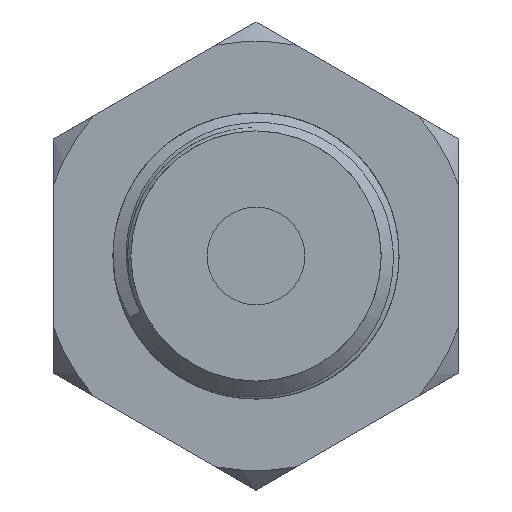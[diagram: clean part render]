
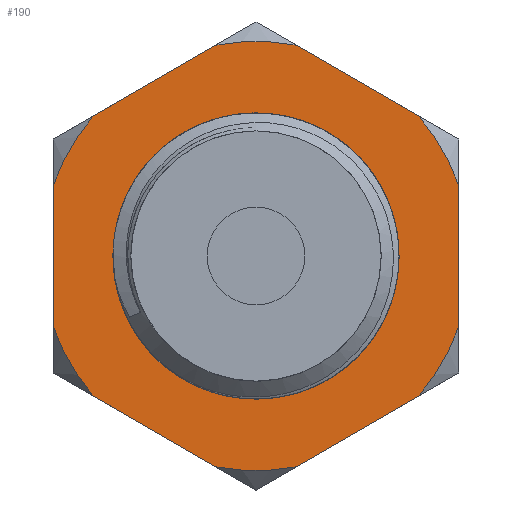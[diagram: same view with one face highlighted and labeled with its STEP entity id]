
A CAD part, left-side view. The second image highlights one B-rep face of the part: STEP entity #190.
In plain terms, the highlighted planar face has unit normal (-1, 0, 0).
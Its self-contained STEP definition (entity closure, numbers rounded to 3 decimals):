
#58=PLANE('',#886);
#75=FACE_BOUND('',#290,.T.);
#76=FACE_BOUND('',#291,.T.);
#105=LINE('',#10341,#141);
#106=LINE('',#10345,#142);
#107=LINE('',#10349,#143);
#108=LINE('',#10353,#144);
#109=LINE('',#10357,#145);
#110=LINE('',#10361,#146);
#141=VECTOR('',#1007,1.);
#142=VECTOR('',#1010,1.);
#143=VECTOR('',#1013,1.);
#144=VECTOR('',#1016,1.);
#145=VECTOR('',#1019,1.);
#146=VECTOR('',#1022,1.);
#190=ADVANCED_FACE('',(#75,#76),#58,.F.);
#290=EDGE_LOOP('',(#499,#500,#501,#502,#503,#504,#505,#506,#507,#508,#509,
#510));
#291=EDGE_LOOP('',(#511,#512,#513,#514));
#351=B_SPLINE_CURVE_WITH_KNOTS('',3,(#10365,#10366,#10367,#10368,#10369,
#10370,#10371,#10372,#10373,#10374,#10375,#10376,#10377,#10378,#10379,#10380,
#10381,#10382,#10383,#10384,#10385,#10386),.UNSPECIFIED.,.F.,.F.,(4,3,3,
3,3,3,3,4),(0.,0.132,0.27,0.426,0.58,
0.731,0.88,1.),.UNSPECIFIED.);
#352=B_SPLINE_CURVE_WITH_KNOTS('',3,(#10390,#10391,#10392,#10393,#10394,
#10395,#10396,#10397,#10398,#10399,#10400,#10401,#10402,#10403,#10404,#10405,
#10406,#10407,#10408,#10409,#10410,#10411),.UNSPECIFIED.,.F.,.F.,(4,3,3,
3,3,3,3,4),(0.,0.104,0.243,0.389,0.537,
0.687,0.84,1.),.UNSPECIFIED.);
#499=ORIENTED_EDGE('',*,*,#758,.T.);
#500=ORIENTED_EDGE('',*,*,#759,.T.);
#501=ORIENTED_EDGE('',*,*,#760,.T.);
#502=ORIENTED_EDGE('',*,*,#761,.T.);
#503=ORIENTED_EDGE('',*,*,#762,.T.);
#504=ORIENTED_EDGE('',*,*,#763,.T.);
#505=ORIENTED_EDGE('',*,*,#764,.T.);
#506=ORIENTED_EDGE('',*,*,#765,.T.);
#507=ORIENTED_EDGE('',*,*,#766,.T.);
#508=ORIENTED_EDGE('',*,*,#767,.T.);
#509=ORIENTED_EDGE('',*,*,#768,.T.);
#510=ORIENTED_EDGE('',*,*,#769,.T.);
#511=ORIENTED_EDGE('',*,*,#770,.T.);
#512=ORIENTED_EDGE('',*,*,#771,.T.);
#513=ORIENTED_EDGE('',*,*,#772,.F.);
#514=ORIENTED_EDGE('',*,*,#773,.T.);
#656=VERTEX_POINT('',#10339);
#657=VERTEX_POINT('',#10340);
#658=VERTEX_POINT('',#10342);
#659=VERTEX_POINT('',#10344);
#660=VERTEX_POINT('',#10346);
#661=VERTEX_POINT('',#10348);
#662=VERTEX_POINT('',#10350);
#663=VERTEX_POINT('',#10352);
#664=VERTEX_POINT('',#10354);
#665=VERTEX_POINT('',#10356);
#666=VERTEX_POINT('',#10358);
#667=VERTEX_POINT('',#10360);
#668=VERTEX_POINT('',#10363);
#669=VERTEX_POINT('',#10364);
#670=VERTEX_POINT('',#10387);
#671=VERTEX_POINT('',#10389);
#758=EDGE_CURVE('',#656,#657,#828,.T.);
#759=EDGE_CURVE('',#657,#658,#105,.T.);
#760=EDGE_CURVE('',#658,#659,#829,.T.);
#761=EDGE_CURVE('',#659,#660,#106,.T.);
#762=EDGE_CURVE('',#660,#661,#830,.T.);
#763=EDGE_CURVE('',#661,#662,#107,.T.);
#764=EDGE_CURVE('',#662,#663,#831,.T.);
#765=EDGE_CURVE('',#663,#664,#108,.T.);
#766=EDGE_CURVE('',#664,#665,#832,.T.);
#767=EDGE_CURVE('',#665,#666,#109,.T.);
#768=EDGE_CURVE('',#666,#667,#833,.T.);
#769=EDGE_CURVE('',#667,#656,#110,.T.);
#770=EDGE_CURVE('',#668,#669,#834,.T.);
#771=EDGE_CURVE('',#669,#670,#351,.T.);
#772=EDGE_CURVE('',#671,#670,#835,.T.);
#773=EDGE_CURVE('',#671,#668,#352,.T.);
#828=CIRCLE('',#878,9.003);
#829=CIRCLE('',#879,9.003);
#830=CIRCLE('',#880,9.003);
#831=CIRCLE('',#881,9.003);
#832=CIRCLE('',#882,9.003);
#833=CIRCLE('',#883,9.003);
#834=CIRCLE('',#884,6.);
#835=CIRCLE('',#885,5.385);
#878=AXIS2_PLACEMENT_3D('',#10338,#1005,#1006);
#879=AXIS2_PLACEMENT_3D('',#10343,#1008,#1009);
#880=AXIS2_PLACEMENT_3D('',#10347,#1011,#1012);
#881=AXIS2_PLACEMENT_3D('',#10351,#1014,#1015);
#882=AXIS2_PLACEMENT_3D('',#10355,#1017,#1018);
#883=AXIS2_PLACEMENT_3D('',#10359,#1020,#1021);
#884=AXIS2_PLACEMENT_3D('',#10362,#1023,#1024);
#885=AXIS2_PLACEMENT_3D('',#10388,#1025,#1026);
#886=AXIS2_PLACEMENT_3D('',#10412,#1027,#1028);
#1005=DIRECTION('',(-1.,0.,0.));
#1006=DIRECTION('',(0.,0.,1.));
#1007=DIRECTION('',(0.,0.,-1.));
#1008=DIRECTION('',(-1.,0.,0.));
#1009=DIRECTION('',(0.,0.,1.));
#1010=DIRECTION('',(0.,-0.866,-0.5));
#1011=DIRECTION('',(-1.,0.,0.));
#1012=DIRECTION('',(0.,0.,1.));
#1013=DIRECTION('',(0.,-0.866,0.5));
#1014=DIRECTION('',(-1.,0.,0.));
#1015=DIRECTION('',(0.,0.,1.));
#1016=DIRECTION('',(0.,0.,1.));
#1017=DIRECTION('',(-1.,0.,0.));
#1018=DIRECTION('',(0.,0.,1.));
#1019=DIRECTION('',(0.,0.866,0.5));
#1020=DIRECTION('',(-1.,0.,0.));
#1021=DIRECTION('',(0.,0.,1.));
#1022=DIRECTION('',(0.,0.866,-0.5));
#1023=DIRECTION('',(1.,0.,0.));
#1024=DIRECTION('',(0.,0.,-1.));
#1025=DIRECTION('',(-1.,0.,0.));
#1026=DIRECTION('',(0.,0.,-1.));
#1027=DIRECTION('',(1.,0.,0.));
#1028=DIRECTION('',(0.,0.,1.));
#10338=CARTESIAN_POINT('',(-30.,0.,0.));
#10339=CARTESIAN_POINT('',(-30.,6.82,5.878));
#10340=CARTESIAN_POINT('',(-30.,8.5,2.967));
#10341=CARTESIAN_POINT('',(-30.,8.5,0.));
#10342=CARTESIAN_POINT('',(-30.,8.5,-2.967));
#10343=CARTESIAN_POINT('',(-30.,0.,0.));
#10344=CARTESIAN_POINT('',(-30.,6.82,-5.878));
#10345=CARTESIAN_POINT('',(-30.,0.5,-9.526));
#10346=CARTESIAN_POINT('',(-30.,1.68,-8.845));
#10347=CARTESIAN_POINT('',(-30.,0.,0.));
#10348=CARTESIAN_POINT('',(-30.,-1.68,-8.845));
#10349=CARTESIAN_POINT('',(-30.,-8.,-5.196));
#10350=CARTESIAN_POINT('',(-30.,-6.82,-5.878));
#10351=CARTESIAN_POINT('',(-30.,0.,0.));
#10352=CARTESIAN_POINT('',(-30.,-8.5,-2.967));
#10353=CARTESIAN_POINT('',(-30.,-8.5,0.));
#10354=CARTESIAN_POINT('',(-30.,-8.5,2.967));
#10355=CARTESIAN_POINT('',(-30.,0.,0.));
#10356=CARTESIAN_POINT('',(-30.,-6.82,5.878));
#10357=CARTESIAN_POINT('',(-30.,-8.,5.196));
#10358=CARTESIAN_POINT('',(-30.,-1.68,8.845));
#10359=CARTESIAN_POINT('',(-30.,0.,0.));
#10360=CARTESIAN_POINT('',(-30.,1.68,8.845));
#10361=CARTESIAN_POINT('',(-30.,0.5,9.526));
#10362=CARTESIAN_POINT('',(-30.,0.,0.));
#10363=CARTESIAN_POINT('',(-30.,4.062,4.416));
#10364=CARTESIAN_POINT('',(-30.,0.961,5.923));
#10365=CARTESIAN_POINT('',(-30.,0.961,5.923));
#10366=CARTESIAN_POINT('',(-30.,0.407,5.987));
#10367=CARTESIAN_POINT('',(-30.,-0.161,5.973));
#10368=CARTESIAN_POINT('',(-30.,-0.711,5.88));
#10369=CARTESIAN_POINT('',(-30.,-1.288,5.782));
#10370=CARTESIAN_POINT('',(-30.,-1.858,5.597));
#10371=CARTESIAN_POINT('',(-30.,-2.381,5.333));
#10372=CARTESIAN_POINT('',(-30.,-2.968,5.036));
#10373=CARTESIAN_POINT('',(-30.,-3.513,4.633));
#10374=CARTESIAN_POINT('',(-30.,-3.967,4.157));
#10375=CARTESIAN_POINT('',(-30.,-4.415,3.687));
#10376=CARTESIAN_POINT('',(-30.,-4.786,3.131));
#10377=CARTESIAN_POINT('',(-30.,-5.049,2.538));
#10378=CARTESIAN_POINT('',(-30.,-5.308,1.955));
#10379=CARTESIAN_POINT('',(-30.,-5.468,1.318));
#10380=CARTESIAN_POINT('',(-30.,-5.515,0.682));
#10381=CARTESIAN_POINT('',(-30.,-5.561,0.057));
#10382=CARTESIAN_POINT('',(-30.,-5.498,-0.585));
#10383=CARTESIAN_POINT('',(-30.,-5.331,-1.189));
#10384=CARTESIAN_POINT('',(-30.,-5.196,-1.677));
#10385=CARTESIAN_POINT('',(-30.,-4.991,-2.15));
#10386=CARTESIAN_POINT('',(-30.,-4.726,-2.581));
#10387=CARTESIAN_POINT('',(-30.,-4.726,-2.581));
#10388=CARTESIAN_POINT('',(-30.,0.,0.));
#10389=CARTESIAN_POINT('',(-30.,0.901,-5.309));
#10390=CARTESIAN_POINT('',(-30.,0.901,-5.309));
#10391=CARTESIAN_POINT('',(-30.,1.337,-5.258));
#10392=CARTESIAN_POINT('',(-30.,1.77,-5.152));
#10393=CARTESIAN_POINT('',(-30.,2.181,-4.997));
#10394=CARTESIAN_POINT('',(-30.,2.73,-4.79));
#10395=CARTESIAN_POINT('',(-30.,3.252,-4.489));
#10396=CARTESIAN_POINT('',(-30.,3.707,-4.118));
#10397=CARTESIAN_POINT('',(-30.,4.184,-3.73));
#10398=CARTESIAN_POINT('',(-30.,4.601,-3.254));
#10399=CARTESIAN_POINT('',(-30.,4.926,-2.731));
#10400=CARTESIAN_POINT('',(-30.,5.255,-2.201));
#10401=CARTESIAN_POINT('',(-30.,5.497,-1.607));
#10402=CARTESIAN_POINT('',(-30.,5.636,-0.999));
#10403=CARTESIAN_POINT('',(-30.,5.776,-0.381));
#10404=CARTESIAN_POINT('',(-30.,5.813,0.27));
#10405=CARTESIAN_POINT('',(-30.,5.744,0.9));
#10406=CARTESIAN_POINT('',(-30.,5.675,1.54));
#10407=CARTESIAN_POINT('',(-30.,5.496,2.177));
#10408=CARTESIAN_POINT('',(-30.,5.222,2.759));
#10409=CARTESIAN_POINT('',(-30.,4.935,3.369));
#10410=CARTESIAN_POINT('',(-30.,4.537,3.938));
#10411=CARTESIAN_POINT('',(-30.,4.062,4.416));
#10412=CARTESIAN_POINT('',(-30.,-5.,0.));
